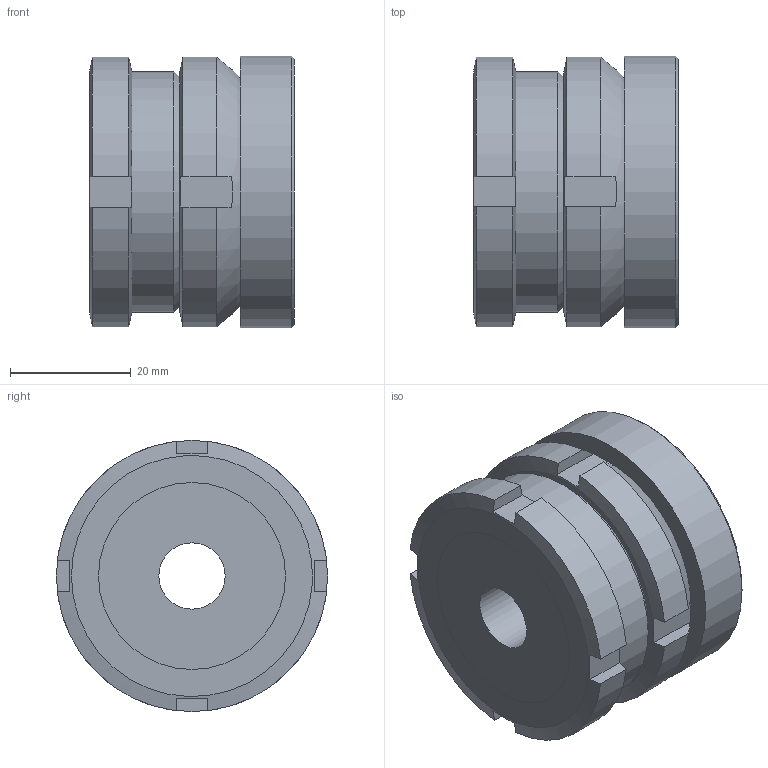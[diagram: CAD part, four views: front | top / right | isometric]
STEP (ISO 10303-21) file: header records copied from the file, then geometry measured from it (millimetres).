
FILE_DESCRIPTION( ( 'STEP AP203' ), '1' );
FILE_NAME( 'C:/Temp/Ganter_Step_05_03_2020/data/3_2/gn350_2/gn_350_2_ni/Stainless Steel-Levelling set GN 350.2-45-11-34-NI (0-0).stp', '2020-03-13T05:28:08', ( 'License CC BY-ND 4.0' ), ( 'CADENAS' ), ' ', 'PARTsolutions', ' ' );
FILE_SCHEMA( ( 'CONFIG_CONTROL_DESIGN' ) );
Length unit declared in the file: millimetre
Products named in the file (4): Stainless Steel-Levelling set GN 350.2-45-11-34-NI (0-0); _Levelling set GN 350.2-45-11-34-ST-G; _Levelling set GN 350.2-45-11-34-ST-K; _Levelling set GN 350.2-45-11-34-ST-P(0)
Assembly tree (3 placements, depth 2):
  Stainless Steel-Levelling set GN 350.2-45-11-34-NI (0-0)
    _Levelling set GN 350.2-45-11-34-ST-G
    _Levelling set GN 350.2-45-11-34-ST-K
    _Levelling set GN 350.2-45-11-34-ST-P(0)
Bounding box: 34 x 45 x 45 mm (x, y, z)
Volume: 45256.3 mm3; surface area: 16556.9 mm2
Topology: 3 solids, 3 shells, 62 faces, 149 edges, 99 vertices
Faces by surface type: plane 36, cylinder 19, cone 5, sphere 2
Full cylindrical faces by diameter (mm): 11 x1, 22 x1, 24.492 x1, 25.5 x1, 28.376 x1, 30 x2, 31 x2, 40 x1, 45 x1
Entity records: 1925 total; most frequent: CARTESIAN_POINT 462, DIRECTION 276, ORIENTED_EDGE 248, EDGE_CURVE 124, AXIS2_PLACEMENT_3D 122, EDGE_LOOP 92, VERTEX_POINT 92, FACE_OUTER_BOUND 75
